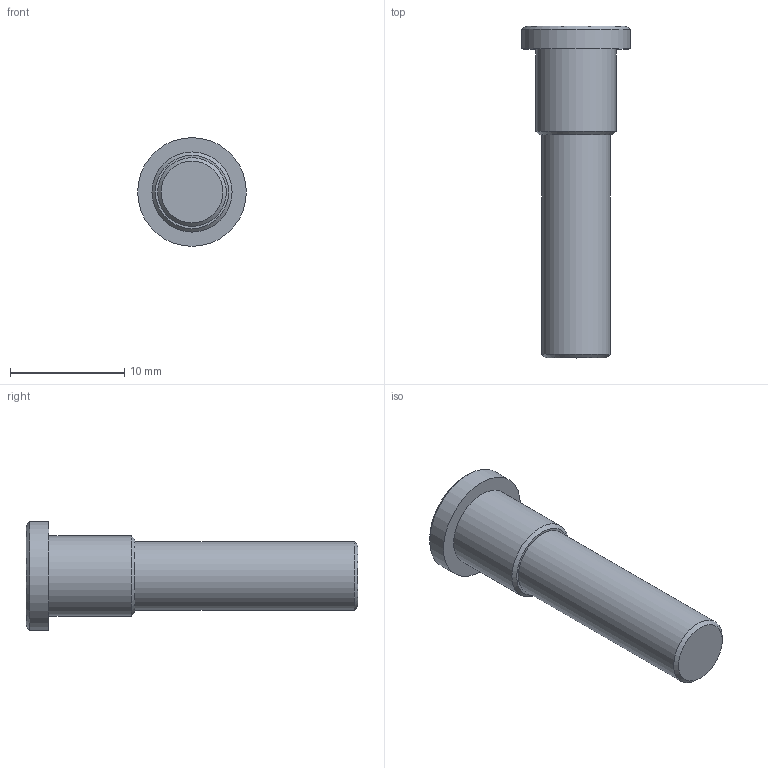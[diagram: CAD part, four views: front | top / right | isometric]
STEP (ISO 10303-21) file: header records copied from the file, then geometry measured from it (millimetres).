
FILE_DESCRIPTION((''),'2;1');
FILE_NAME('C:\Documents and Settings\rivolro1\Documenti\copia di Raccordi\PLASTICA\T09XX00\T090600.stp','2007-10-30T17:18:41',('Rivolro1'),(''),'Autodesk Inventor 2008','Autodesk Inventor 2008','');
FILE_SCHEMA(('AUTOMOTIVE_DESIGN { 1 0 10303 214 1 1 1 1 }'));
Length unit declared in the file: millimetre
Products named in the file (1): T090600
Bounding box: 9.5 x 29 x 9.5 mm (x, y, z)
Volume: 978.7 mm3; surface area: 721.2 mm2
Topology: 1 solids, 1 shells, 10 faces, 15 edges, 9 vertices
Faces by surface type: plane 4, cone 3, cylinder 3
Full cylindrical faces by diameter (mm): 6 x1, 7 x1, 9.5 x1
Entity records: 220 total; most frequent: DIRECTION 40, CARTESIAN_POINT 29, AXIS2_PLACEMENT_3D 20, ORIENTED_EDGE 18, EDGE_LOOP 18, FACE_OUTER_BOUND 10, ADVANCED_FACE 10, VERTEX_POINT 9
